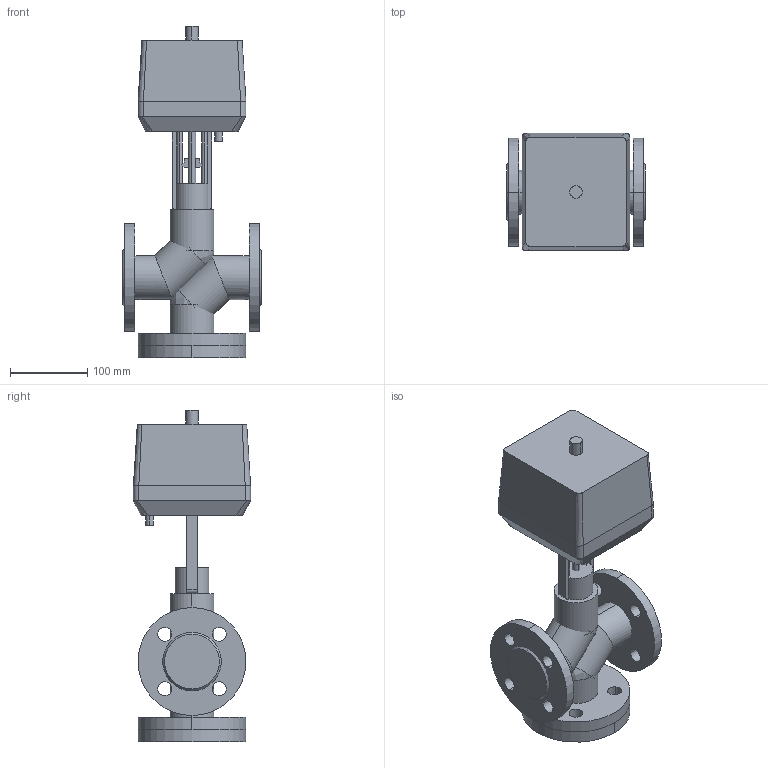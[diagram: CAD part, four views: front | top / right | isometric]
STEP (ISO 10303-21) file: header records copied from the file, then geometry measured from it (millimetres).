
FILE_DESCRIPTION(/* description */ (''),/* implementation_level */ '2;1');
FILE_NAME(/* name */ 'ТРК DN32 PN 1.6 МПа VTM-i 1000H',/* time_stamp */ '2026-07-14T23:22:49+03:00',/* author */ (''),/* organization */ (''),/* preprocessor_version */ 'ST-DEVELOPER v20',/* originating_system */ '',/* authorisation */ '');
FILE_SCHEMA (('AP242_MANAGED_MODEL_BASED_3D_ENGINEERING_MIM_LF { 1 0 10303 442 1 1 4 }'));
Length unit declared in the file: millimetre
Products named in the file (14): TopLevelAssembly; Выдавливание; Модификатор; Модификатор_1; Выдавливание_
1; Выдавливание_
2; Вращение; Выдавливание_
3; Выдавливание_
4; 1600; Переход; Объемная геометрия 
присоединена; Полый Выдавливание; Объемная геометрия 
присоединена_1
Assembly tree (13 placements, depth 2):
  TopLevelAssembly
    Выдавливание
    Модификатор
    Модификатор_1
    Выдавливание_
1
    Выдавливание_
2
    Вращение
    Выдавливание_
3
    Выдавливание_
4
    1600
    Переход
    Объемная геометрия 
присоединена
    Полый Выдавливание
    Объемная геометрия 
присоединена_1
Bounding box: 180 x 152 x 430 mm (x, y, z)
Volume: 4171186.3 mm3; surface area: 467392.1 mm2
Topology: 21 solids, 21 shells, 166 faces, 372 edges, 244 vertices
Faces by surface type: plane 78, cylinder 72, bspline 12, cone 4
Entity records: 5367 total; most frequent: CARTESIAN_POINT 1081, DIRECTION 906, ORIENTED_EDGE 728, EDGE_CURVE 364, AXIS2_PLACEMENT_3D 361, VERTEX_POINT 244, EDGE_LOOP 200, LINE 184
